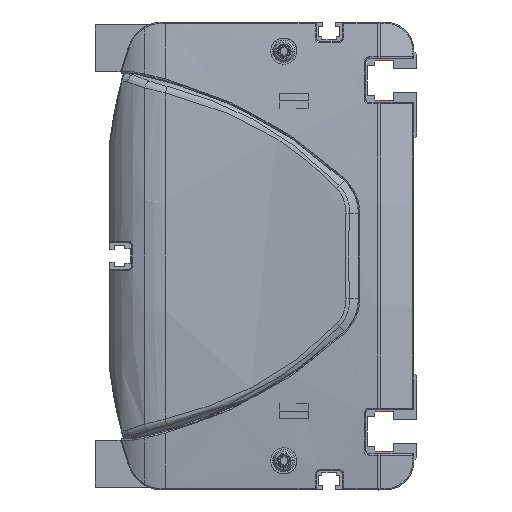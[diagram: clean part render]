
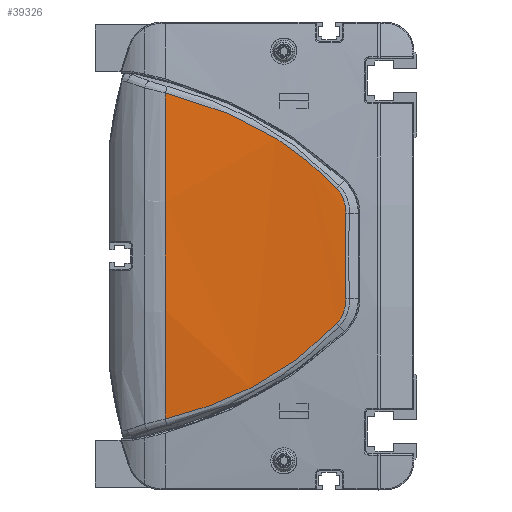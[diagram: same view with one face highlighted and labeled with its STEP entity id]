
A CAD part, left-side view. The second image highlights one B-rep face of the part: STEP entity #39326.
In plain terms, the highlighted cylindrical face has radius 600 mm (diameter 1200 mm), a partial arc.
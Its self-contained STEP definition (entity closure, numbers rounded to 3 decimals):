
#34157=CARTESIAN_POINT('',(-12.406,86.,
55.736));
#34158=CARTESIAN_POINT('',(-12.529,80.495,
54.41));
#34159=CARTESIAN_POINT('',(-12.828,69.636,
51.114));
#34160=CARTESIAN_POINT('',(-13.389,54.079,
44.179));
#34161=CARTESIAN_POINT('',(-14.01,39.709,
34.979));
#34162=CARTESIAN_POINT('',(-14.395,31.353,
27.243));
#34163=CARTESIAN_POINT('',(-14.555,27.451,
23.113));
#34165=CARTESIAN_POINT('',(-14.555,27.451,
23.113));
#34166=CARTESIAN_POINT('',(-14.598,26.394,
21.994));
#34167=CARTESIAN_POINT('',(-14.695,24.746,
19.315));
#34168=CARTESIAN_POINT('',(-14.783,24.276,
16.208));
#34169=CARTESIAN_POINT('',(-14.821,24.351,
14.67));
#34171=CARTESIAN_POINT('',(-14.821,24.351,
14.67));
#34172=CARTESIAN_POINT('',(-14.9,24.51,
11.413));
#34173=CARTESIAN_POINT('',(-15.007,24.721,
4.895));
#34174=CARTESIAN_POINT('',(-15.007,24.721,
-4.895));
#34175=CARTESIAN_POINT('',(-14.9,24.51,
-11.413));
#34176=CARTESIAN_POINT('',(-14.821,24.351,
-14.67));
#34178=CARTESIAN_POINT('',(-14.821,24.351,
-14.67));
#34179=CARTESIAN_POINT('',(-14.783,24.276,
-16.208));
#34180=CARTESIAN_POINT('',(-14.695,24.746,
-19.315));
#34181=CARTESIAN_POINT('',(-14.598,26.394,
-21.995));
#34182=CARTESIAN_POINT('',(-14.555,27.451,
-23.113));
#34184=CARTESIAN_POINT('',(-14.555,27.451,
-23.113));
#34185=CARTESIAN_POINT('',(-14.395,31.353,
-27.243));
#34186=CARTESIAN_POINT('',(-14.01,39.709,
-34.979));
#34187=CARTESIAN_POINT('',(-13.389,54.079,
-44.179));
#34188=CARTESIAN_POINT('',(-12.828,69.636,
-51.114));
#34189=CARTESIAN_POINT('',(-12.529,80.495,
-54.41));
#34190=CARTESIAN_POINT('',(-12.406,86.,
-55.736));
#34192=CARTESIAN_POINT('',(585.,86.,0.));
#34193=DIRECTION('',(0.,1.,0.));
#34194=DIRECTION('',(-0.996,0.,-0.093));
#34195=AXIS2_PLACEMENT_3D('',#34192,#34193,#34194);
#34208=CARTESIAN_POINT('',(-12.406,86.,
55.736));
#34732=VERTEX_POINT('',#34208);
#34733=CARTESIAN_POINT('',(-12.406,86.,
-55.736));
#34734=VERTEX_POINT('',#34733);
#34786=VERTEX_POINT('',#34163);
#34787=VERTEX_POINT('',#34169);
#34788=VERTEX_POINT('',#34176);
#34789=VERTEX_POINT('',#34182);
#39308=CARTESIAN_POINT('',(585.,87.45,0.));
#39309=DIRECTION('',(0.,-1.,0.));
#39310=DIRECTION('',(0.,0.,-1.));
#39311=AXIS2_PLACEMENT_3D('',#39308,#39309,#39310);
#39312=CYLINDRICAL_SURFACE('',#39311,600.);
#39314=ORIENTED_EDGE('',*,*,#39313,.T.);
#39316=ORIENTED_EDGE('',*,*,#39315,.T.);
#39317=ORIENTED_EDGE('',*,*,#39298,.T.);
#39319=ORIENTED_EDGE('',*,*,#39318,.T.);
#39321=ORIENTED_EDGE('',*,*,#39320,.T.);
#39323=ORIENTED_EDGE('',*,*,#39322,.T.);
#39324=EDGE_LOOP('',(#39314,#39316,#39317,#39319,#39321,#39323));
#39325=FACE_OUTER_BOUND('',#39324,.F.);
#39326=ADVANCED_FACE('',(#39325),#39312,.T.);
#34164=B_SPLINE_CURVE_WITH_KNOTS('',3,(#34157,#34158,#34159,#34160,#34161,
#34162,#34163),.UNSPECIFIED.,.F.,.F.,(4,1,1,1,4),(0.,0.25,0.5,0.75,
1.),.UNSPECIFIED.);
#34170=B_SPLINE_CURVE_WITH_KNOTS('',3,(#34165,#34166,#34167,#34168,#34169),
.UNSPECIFIED.,.F.,.F.,(4,1,4),(0.,0.5,1.),.UNSPECIFIED.);
#34177=B_SPLINE_CURVE_WITH_KNOTS('',3,(#34171,#34172,#34173,#34174,#34175,
#34176),.UNSPECIFIED.,.F.,.F.,(4,1,1,4),(0.,0.333,
0.667,1.),.UNSPECIFIED.);
#34183=B_SPLINE_CURVE_WITH_KNOTS('',3,(#34178,#34179,#34180,#34181,#34182),
.UNSPECIFIED.,.F.,.F.,(4,1,4),(0.,0.5,1.),.UNSPECIFIED.);
#34191=B_SPLINE_CURVE_WITH_KNOTS('',3,(#34184,#34185,#34186,#34187,#34188,
#34189,#34190),.UNSPECIFIED.,.F.,.F.,(4,1,1,1,4),(0.,0.25,0.5,0.75,
1.),.UNSPECIFIED.);
#34196=CIRCLE('',#34195,600.);
#39298=EDGE_CURVE('',#34787,#34788,#34177,.T.);
#39313=EDGE_CURVE('',#34732,#34786,#34164,.T.);
#39315=EDGE_CURVE('',#34786,#34787,#34170,.T.);
#39318=EDGE_CURVE('',#34788,#34789,#34183,.T.);
#39320=EDGE_CURVE('',#34789,#34734,#34191,.T.);
#39322=EDGE_CURVE('',#34734,#34732,#34196,.T.);
